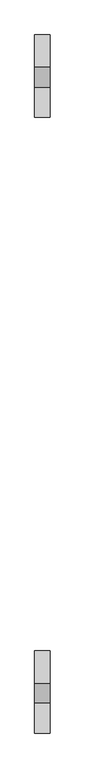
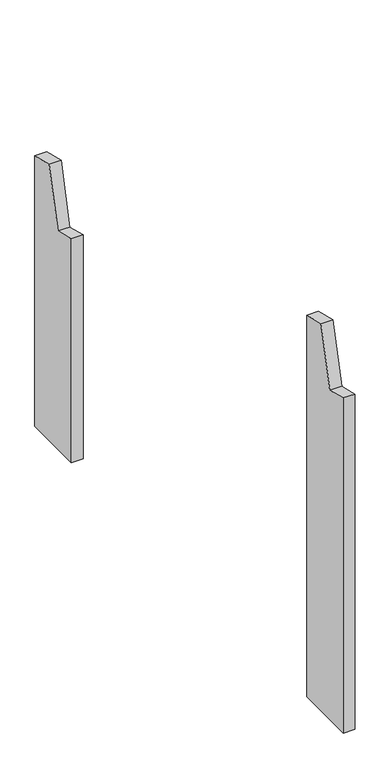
"""IFC4 building model written with IfcOpenShell, lengths in millimetres: proxy geometry, Modelos genéricos 118 : Modelos genéricos 5."""

from ifc_helpers import new_model, si_unit, frame, origin, place, context, project, spatial, polyline, outline, extrude, source, transform, mapped, element, save


def generic_models_1c750111(model_context):
    return source(origin(), model_context, "Body", "SweptSolid", [
        extrude(outline(polyline([(3268.6238165, 3000.0), (3268.6238165, 3898.0915281), (3326.8415601, 3883.5762143), (3365.5490634, 4038.8235305), (3428.6238165, 4023.0972283), (3428.6238165, 3000.0), (3268.6238165, 3000.0)])), frame((44293.4472467, 0.0, 0.0), z_axis=(1.0, 0.0, 0.0), x_axis=(0.0, 1.0, 0.0)), (0.0, 0.0, 1.0), 30.0),
        extrude(outline(polyline([(4463.6238165, 3000.0), (4463.6238165, 3600.1445647), (4521.8415601, 3585.6292509), (4560.5490634, 3740.8765671), (4623.6238165, 3725.1502649), (4623.6238165, 3000.0), (4463.6238165, 3000.0)])), frame((44293.4472467, 0.0, 0.0), z_axis=(1.0, 0.0, 0.0), x_axis=(0.0, 1.0, 0.0)), (0.0, 0.0, 1.0), 30.0),
    ])


if __name__ == "__main__":
    model = new_model("IFC4")
    model_context = context("Model", 3, world=origin())
    ifc_project = project(units=[si_unit("LENGTHUNIT", "METRE", prefix="MILLI")], contexts=[model_context])
    site = spatial("IfcSite", under=ifc_project)
    building = spatial("IfcBuilding", under=site)
    placement = place(None, origin())
    generic_models_shape = generic_models_1c750111(model_context)
    element("IfcBuildingElementProxy", 1, Name="Modelos genéricos 118 : Modelos genéricos 5", ObjectType="Modelos genéricos 118 : Modelos genéricos 5", at=placement, inside=building, context=model_context, shape_type="MappedRepresentation", body=[
        mapped(generic_models_shape, transform((0.0, 0.0, 0.0), x_axis=(1.0, 0.0, 0.0), y_axis=(0.0, 1.0, 0.0), z_axis=(0.0, 0.0, 1.0))),
    ])
    save(model, "model.ifc")
